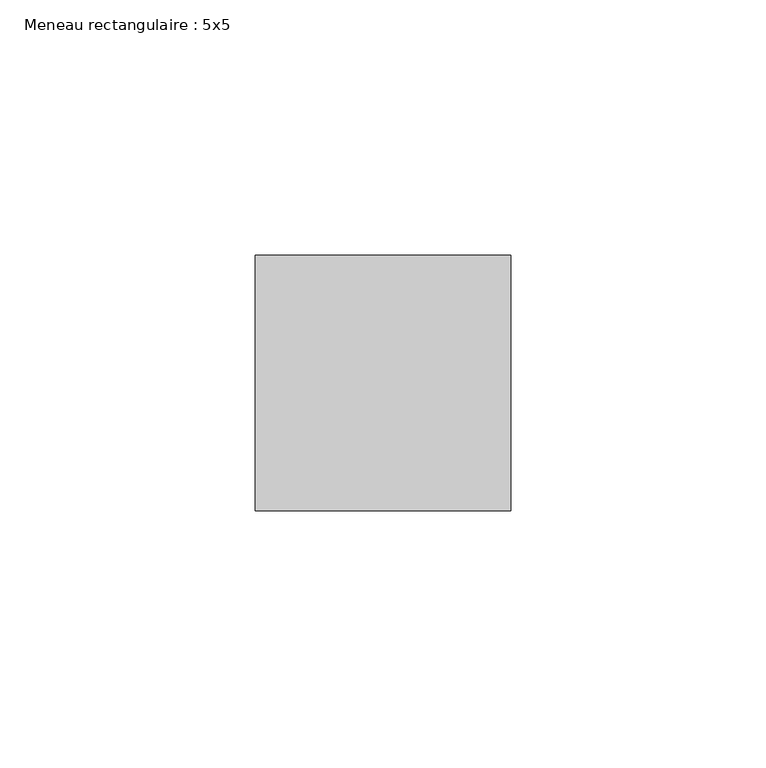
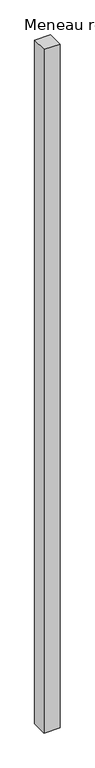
"""IFC4 building model written with IfcOpenShell, lengths in millimetres: member geometry, Meneau rectangulaire : 5x5."""

import ifcopenshell
import ifcopenshell.guid

model = None  # the IFC model being written
_history = None  # IfcOwnerHistory: only IFC2X3 demands one
_inside = {}  # id of a spatial element -> (the spatial element, [elements in it])
_under = {}  # id of a project, library or spatial element -> (it, [spatial elements below it])
_declared = {}  # id of a project -> (the project, [libraries it declares])
_typed = {}  # id of a type object -> (the type object, [elements of that type])
_made_of = {}  # id of a material, layer set ... -> (it, [elements and type objects made of it])


def new_model(schema):
    """Start an empty IFC model of exactly this schema.

    Asked for "IFC4X3", IfcOpenShell would pick the latest addendum, in which some entities
    have other attributes; the version numbers below select the first issue.
    IFC2X3 requires an IfcOwnerHistory on every rooted entity: one is made here for all.
    """
    global model, _history
    if schema == "IFC4X3":
        model = ifcopenshell.file(schema_version=(4, 3, 0, 0))
    else:
        model = ifcopenshell.file(schema=schema)
    _inside.clear()
    _under.clear()
    _declared.clear()
    _typed.clear()
    _made_of.clear()
    _history = None
    if model.schema == "IFC2X3":
        org = make("IfcOrganization", Name="unknown")
        user = make(
            "IfcPersonAndOrganization",
            ThePerson=make("IfcPerson", FamilyName="unknown"),
            TheOrganization=org,
        )
        app = make(
            "IfcApplication",
            ApplicationDeveloper=org,
            Version="unknown",
            ApplicationFullName="unknown",
            ApplicationIdentifier="unknown",
        )
        _history = make(
            "IfcOwnerHistory",
            OwningUser=user,
            OwningApplication=app,
            ChangeAction="ADDED",
            CreationDate=0,
        )
    return model


def make(cls, **values):
    """One entity of the class cls with the attributes given. An attribute that is None is left unset."""
    return model.create_entity(
        cls, **{name: value for name, value in values.items() if value is not None}
    )


def rooted(cls, **values):
    """An entity with a GlobalId (a new one), such as an element, a storey or a relation."""
    return make(cls, GlobalId=ifcopenshell.guid.new(), OwnerHistory=_history, **values)


def si_unit(unit_type, name, prefix=None):
    """IfcSIUnit, for example si_unit("LENGTHUNIT", "METRE", prefix="MILLI")."""
    return make("IfcSIUnit", UnitType=unit_type, Prefix=prefix, Name=name)


def assignment(units):
    """IfcUnitAssignment: the units of a project."""
    return None if units is None else make("IfcUnitAssignment", Units=units)


def point(xyz):
    """IfcCartesianPoint."""
    return None if xyz is None else make("IfcCartesianPoint", Coordinates=xyz)


def direction(xyz):
    """IfcDirection."""
    return None if xyz is None else make("IfcDirection", DirectionRatios=xyz)


def frame(location, z_axis=None, x_axis=None):
    """IfcAxis2Placement3D, a coordinate frame: its origin and axes. An axis left out is left unset."""
    return make(
        "IfcAxis2Placement3D",
        Location=point(location),
        Axis=direction(z_axis),
        RefDirection=direction(x_axis),
    )


def origin():
    """The frame at (0, 0, 0) with its axes left unset."""
    return frame((0.0, 0.0, 0.0))


def place(relative_to, where):
    """IfcLocalPlacement: puts the frame where relative to a parent placement (None: the world)."""
    return make(
        "IfcLocalPlacement", PlacementRelTo=relative_to, RelativePlacement=where
    )


def context(
    kind, dimensions, precision=None, world=None, true_north=None, identifier=None
):
    """IfcGeometricRepresentationContext, for example the 3D "Model" context."""
    return make(
        "IfcGeometricRepresentationContext",
        ContextIdentifier=identifier,
        ContextType=kind,
        CoordinateSpaceDimension=dimensions,
        Precision=precision,
        WorldCoordinateSystem=world,
        TrueNorth=true_north,
    )


def project(units=None, contexts=None):
    """IfcProject with its units and contexts."""
    return rooted(
        "IfcProject",
        Name="project",
        RepresentationContexts=contexts,
        UnitsInContext=assignment(units),
    )


def spatial(cls, under=None, at=None, **own):
    """A site, building, storey or space (cls), placed at a placement, below another one or the project."""
    s = rooted(cls, ObjectPlacement=at, **own)
    if under is not None:
        _under.setdefault(under.id(), (under, []))[1].append(s)
    return s


def polyline(points):
    """IfcPolyline through the points."""
    return make("IfcPolyline", Points=[point(p) for p in points])


def outline(outer, holes=None, kind="AREA"):
    """IfcArbitraryClosedProfileDef: a profile drawn as a closed curve; with holes, ...WithVoids."""
    if holes is None:
        return make("IfcArbitraryClosedProfileDef", ProfileType=kind, OuterCurve=outer)
    return make(
        "IfcArbitraryProfileDefWithVoids",
        ProfileType=kind,
        OuterCurve=outer,
        InnerCurves=holes,
    )


def extrude(swept, where, along, depth):
    """IfcExtrudedAreaSolid: the profile swept, set in the frame where, extruded along a direction by depth."""
    return make(
        "IfcExtrudedAreaSolid",
        SweptArea=swept,
        Position=where,
        ExtrudedDirection=direction(along),
        Depth=depth,
    )


def shape(context_of_items, identifier, shape_type, items):
    """IfcShapeRepresentation: the items that make up one representation, for example the "Body"."""
    return make(
        "IfcShapeRepresentation",
        ContextOfItems=context_of_items,
        RepresentationIdentifier=identifier,
        RepresentationType=shape_type,
        Items=items,
    )


def source(mapping_origin, context_of_items, identifier, shape_type, items):
    """IfcRepresentationMap: a shape defined once, which mapped items show again and again."""
    return make(
        "IfcRepresentationMap",
        MappingOrigin=mapping_origin,
        MappedRepresentation=shape(context_of_items, identifier, shape_type, items),
    )


def transform(
    local_origin,
    x_axis=None,
    y_axis=None,
    z_axis=None,
    scale=None,
    scale2=None,
    scale3=None,
    uniform=True,
):
    """IfcCartesianTransformationOperator3D, or its non-uniform kind. x_axis, y_axis, z_axis: its Axis1, 2, 3."""
    if uniform:
        return make(
            "IfcCartesianTransformationOperator3D",
            Axis1=direction(x_axis),
            Axis2=direction(y_axis),
            LocalOrigin=point(local_origin),
            Scale=scale,
            Axis3=direction(z_axis),
        )
    return make(
        "IfcCartesianTransformationOperator3DnonUniform",
        Axis1=direction(x_axis),
        Axis2=direction(y_axis),
        LocalOrigin=point(local_origin),
        Scale=scale,
        Axis3=direction(z_axis),
        Scale2=scale2,
        Scale3=scale3,
    )


def mapped(mapping_source, mapping_target):
    """IfcMappedItem: shows the shape of a source again, moved by a transform."""
    return make(
        "IfcMappedItem", MappingSource=mapping_source, MappingTarget=mapping_target
    )


def made_of(thing, what):
    """Note that an element or type object is made of a material, layer set ...; save() writes the relation."""
    if what is not None:
        _made_of.setdefault(what.id(), (what, []))[1].append(thing)
    return thing


def element(
    cls,
    number,
    at=None,
    inside=None,
    cuts=None,
    type_object=None,
    material=None,
    context=None,
    identifier="Body",
    shape_type=None,
    held_by="IfcProductDefinitionShape",
    body=None,
    shapes=None,
    **own,
):
    """One element of the class cls, such as IfcWall. Its Tag is "e" and its number.

    at: its placement. inside: the storey or other place that contains it. cuts: it is an
    opening in that element (IfcRelVoidsElement). A single representation is given by context,
    identifier, shape_type and body (its items); several are given by shapes. held_by: the class
    of the entity that holds the representations. save() writes the other relations.
    """
    e = rooted(cls, Tag="e%d" % number, ObjectPlacement=at, **own)
    if body is not None:
        shapes = [shape(context, identifier, shape_type, body)]
    if shapes is not None:
        e.Representation = make(held_by, Representations=shapes)
    if inside is not None:
        _inside.setdefault(inside.id(), (inside, []))[1].append(e)
    if cuts is not None:
        rooted(
            "IfcRelVoidsElement", RelatingBuildingElement=cuts, RelatedOpeningElement=e
        )
    if type_object is not None:
        _typed.setdefault(type_object.id(), (type_object, []))[1].append(e)
    return made_of(e, material)


def aggregate(whole, parts):
    """IfcRelAggregates: a whole, such as a stair, and the parts it consists of."""
    return rooted("IfcRelAggregates", RelatingObject=whole, RelatedObjects=parts)


def save(model, path):
    """Write the relations noted so far, then the file.

    IfcRelAggregates (storeys below a building ...), IfcRelContainedInSpatialStructure (elements
    in a storey), IfcRelDefinesByType, IfcRelAssociatesMaterial and IfcRelDeclares: one each for
    every whole, place, type object, material and project.
    """
    for whole, parts in _under.values():
        aggregate(whole, parts)
    for where, things in _inside.values():
        rooted(
            "IfcRelContainedInSpatialStructure",
            RelatedElements=things,
            RelatingStructure=where,
        )
    for kind, things in _typed.values():
        rooted("IfcRelDefinesByType", RelatedObjects=things, RelatingType=kind)
    for what, things in _made_of.values():
        rooted("IfcRelAssociatesMaterial", RelatedObjects=things, RelatingMaterial=what)
    for by, libraries in _declared.values():
        rooted("IfcRelDeclares", RelatingContext=by, RelatedDefinitions=libraries)
    model.write(path)


def meneau_rectangulaire_5x5_bc87e2f8(model_context):
    return source(origin(), model_context, "Body", "SweptSolid", [
        extrude(outline(polyline([(0.0, 25.0), (0.0, -25.0), (-50.0, -25.0), (-50.0, 25.0), (0.0, 25.0)])), frame((0.0, 0.0, -2263.05618), z_axis=(0.0, 0.0, 1.0), x_axis=(1.0, 0.0, 0.0)), (0.0, 0.0, 1.0), 2263.05618),
    ])


if __name__ == "__main__":
    model = new_model("IFC4")
    model_context = context("Model", 3, world=origin())
    ifc_project = project(units=[si_unit("LENGTHUNIT", "METRE", prefix="MILLI")], contexts=[model_context])
    site = spatial("IfcSite", under=ifc_project)
    building = spatial("IfcBuilding", under=site)
    placement = place(None, origin())
    meneau_rectangulaire_5x5_shape = meneau_rectangulaire_5x5_bc87e2f8(model_context)
    element("IfcMember", 1, ObjectType="Meneau rectangulaire : 5x5", at=placement, inside=building, context=model_context, shape_type="MappedRepresentation", body=[
        mapped(meneau_rectangulaire_5x5_shape, transform((0.0, 0.0, 0.0), x_axis=(1.0, 0.0, 0.0), y_axis=(0.0, 1.0, 0.0), z_axis=(0.0, 0.0, 1.0))),
    ])
    save(model, "model.ifc")
